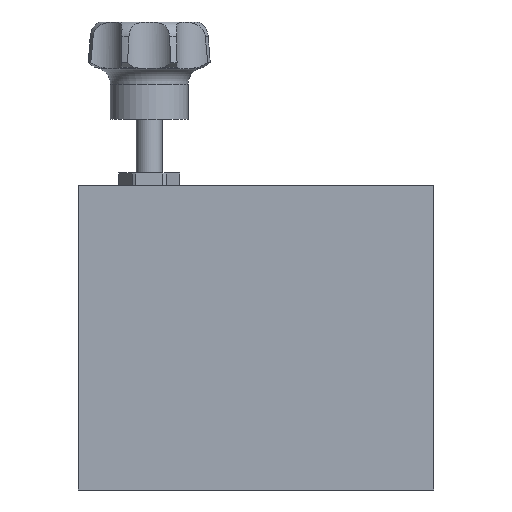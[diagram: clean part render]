
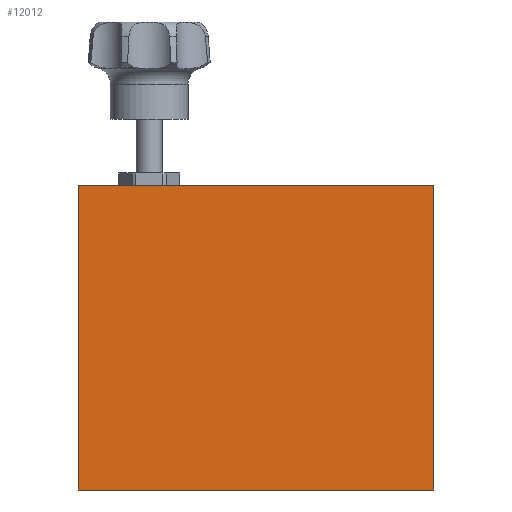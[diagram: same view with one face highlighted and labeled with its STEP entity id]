
A CAD part, left-side view. The second image highlights one B-rep face of the part: STEP entity #12012.
In plain terms, the highlighted planar face has unit normal (-1, 0, 0).
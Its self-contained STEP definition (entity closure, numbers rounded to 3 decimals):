
#24=DIRECTION('',(0.,0.,-1.));
#25=VECTOR('',#24,94.);
#26=CARTESIAN_POINT('',(0.,0.,0.));
#27=LINE('',#26,#25);
#32=DIRECTION('',(0.,1.,0.));
#33=VECTOR('',#32,110.);
#34=CARTESIAN_POINT('',(0.,0.,-94.));
#35=LINE('',#34,#33);
#39=DIRECTION('',(0.,0.,1.));
#40=VECTOR('',#39,94.);
#41=CARTESIAN_POINT('',(0.,110.,-94.));
#42=LINE('',#41,#40);
#46=DIRECTION('',(0.,-1.,0.));
#47=VECTOR('',#46,110.);
#48=CARTESIAN_POINT('',(0.,110.,0.));
#49=LINE('',#48,#47);
#10983=CARTESIAN_POINT('',(0.,0.,0.));
#10984=CARTESIAN_POINT('',(0.,0.,-94.));
#10985=VERTEX_POINT('',#10983);
#10986=VERTEX_POINT('',#10984);
#10987=CARTESIAN_POINT('',(0.,110.,-94.));
#10988=VERTEX_POINT('',#10987);
#10989=CARTESIAN_POINT('',(0.,110.,0.));
#10990=VERTEX_POINT('',#10989);
#11997=CARTESIAN_POINT('',(0.,0.,0.));
#11998=DIRECTION('',(1.,0.,0.));
#11999=DIRECTION('',(0.,0.,-1.));
#12000=AXIS2_PLACEMENT_3D('',#11997,#11998,#11999);
#12001=PLANE('',#12000);
#12003=ORIENTED_EDGE('',*,*,#12002,.T.);
#12005=ORIENTED_EDGE('',*,*,#12004,.T.);
#12007=ORIENTED_EDGE('',*,*,#12006,.T.);
#12009=ORIENTED_EDGE('',*,*,#12008,.T.);
#12010=EDGE_LOOP('',(#12003,#12005,#12007,#12009));
#12011=FACE_OUTER_BOUND('',#12010,.F.);
#12002=EDGE_CURVE('',#10985,#10986,#27,.T.);
#12004=EDGE_CURVE('',#10986,#10988,#35,.T.);
#12006=EDGE_CURVE('',#10988,#10990,#42,.T.);
#12008=EDGE_CURVE('',#10990,#10985,#49,.T.);
#12012=ADVANCED_FACE('',(#12011),#12001,.F.);
